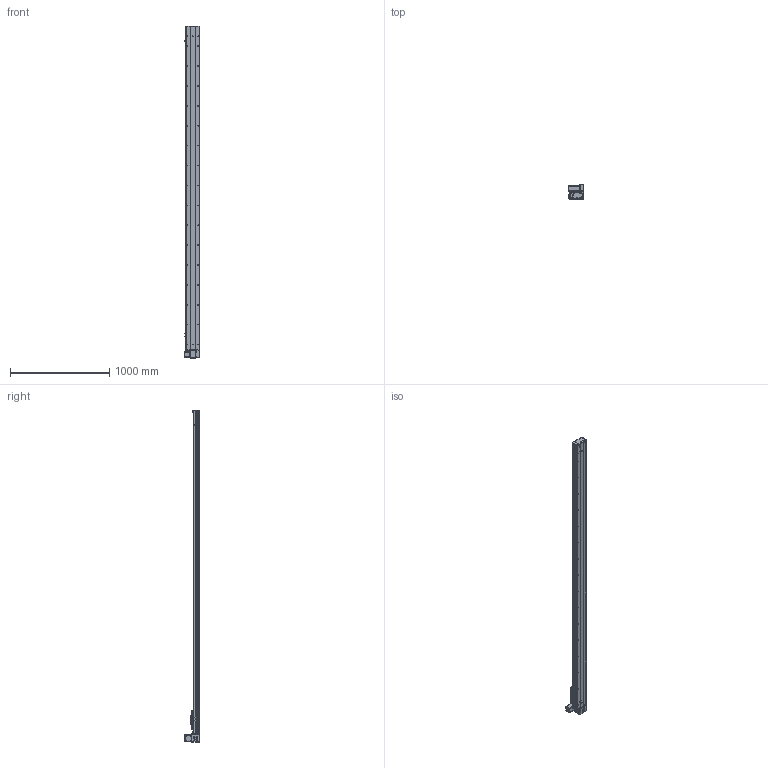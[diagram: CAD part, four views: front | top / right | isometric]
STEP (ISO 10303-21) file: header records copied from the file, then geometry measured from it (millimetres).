
FILE_DESCRIPTION (( 'STEP AP203' ), '1' );
FILE_NAME ('Y135CB-D90-S2950-UL-P400W.STEP', '2020-02-18T08:16:12', ( '微软用户' ), ( '微软中国' ), 'SwSTEP 2.0', 'SolidWorks 2017', '' );
FILE_SCHEMA (( 'CONFIG_CONTROL_DESIGN' ));
Length unit declared in the file: millimetre
Products named in the file (18): Y10B-耜蚾蟀諉啣----; san松下电机400不带刹车----; 00B-俋欶BM--; 5CB --掛极耜裔啣-; Y10B--々湍喘謫眊--666; C-詩湍揤踡え-陔; Y135CB-耜裔; Y135CB-D90-S2950-UL-P400W; 135CB--詩湍-CE; 135CB---遴掛极.-; Y100-135俋离換覜ん--; 35CB---喘謫眊楊擘啣; Y135C-陔俋离換覜結え-; 0B-埴倛裔啣; 5C--俋欶; 0B-源倛裔啣; C-雄赽釱--; 0B-萇儂楊擘啣
Assembly tree (21 placements, depth 2):
  Y135CB-D90-S2950-UL-P400W
    Y135CB-耜裔
    135CB---遴掛极.-
    35CB---喘謫眊楊擘啣
    0B-埴倛裔啣
    0B-源倛裔啣
    0B-萇儂楊擘啣
    san松下电机400不带刹车----
    5CB --掛极耜裔啣-  x2
    C-詩湍揤踡え-陔  x2
    135CB--詩湍-CE
    Y100-135俋离換覜ん--  x3
    Y135C-陔俋离換覜結え-
    5C--俋欶
    C-雄赽釱--
    Y10B-耜蚾蟀諉啣----
    00B-俋欶BM--
    Y10B--々湍喘謫眊--666
Bounding box: 157 x 158.7 x 3338 mm (x, y, z)
Volume: 9450372.7 mm3; surface area: 3749164.3 mm2
Topology: 21 solids, 21 shells, 985 faces, 2707 edges, 1794 vertices
Faces by surface type: cylinder 513, plane 456, cone 16
Entity records: 31369 total; most frequent: CARTESIAN_POINT 5252, DIRECTION 5215, ORIENTED_EDGE 4890, EDGE_CURVE 2445, AXIS2_PLACEMENT_3D 1917, VERTEX_POINT 1622, VECTOR 1381, LINE 1381
